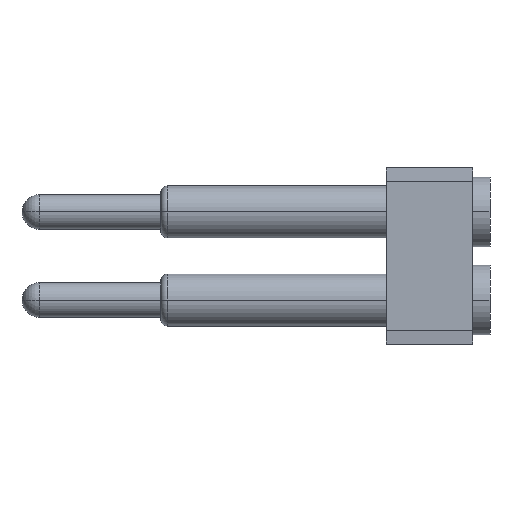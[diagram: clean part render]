
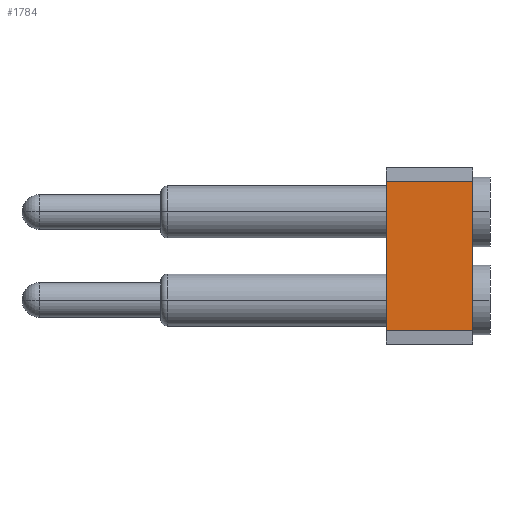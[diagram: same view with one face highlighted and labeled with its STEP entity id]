
A CAD part, left-side view. The second image highlights one B-rep face of the part: STEP entity #1784.
In plain terms, the highlighted planar face has unit normal (-1, 0, 0).
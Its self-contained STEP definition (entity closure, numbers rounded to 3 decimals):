
#89=DIRECTION('',(0.,0.,1.));
#90=VECTOR('',#89,4.307);
#91=CARTESIAN_POINT('',(-6.104,0.,-4.694));
#92=LINE('',#91,#90);
#449=DIRECTION('',(0.,0.,1.));
#450=VECTOR('',#449,4.307);
#451=CARTESIAN_POINT('',(-6.104,2.5,-4.694));
#452=LINE('',#451,#450);
#645=DIRECTION('',(0.,1.,0.));
#646=VECTOR('',#645,2.5);
#647=CARTESIAN_POINT('',(-6.104,0.,-0.387));
#648=LINE('',#647,#646);
#649=DIRECTION('',(0.,1.,0.));
#650=VECTOR('',#649,2.5);
#651=CARTESIAN_POINT('',(-6.104,0.,-4.694));
#652=LINE('',#651,#650);
#693=CARTESIAN_POINT('',(-6.104,0.,-4.694));
#694=VERTEX_POINT('',#693);
#695=CARTESIAN_POINT('',(-6.104,0.,-0.387));
#696=VERTEX_POINT('',#695);
#797=CARTESIAN_POINT('',(-6.104,2.5,-4.694));
#798=VERTEX_POINT('',#797);
#799=CARTESIAN_POINT('',(-6.104,2.5,-0.387));
#800=VERTEX_POINT('',#799);
#1772=CARTESIAN_POINT('',(-6.104,0.,-4.694));
#1773=DIRECTION('',(-1.,0.,0.));
#1774=DIRECTION('',(0.,0.,1.));
#1775=AXIS2_PLACEMENT_3D('',#1772,#1773,#1774);
#1776=PLANE('',#1775);
#1777=ORIENTED_EDGE('',*,*,#874,.F.);
#1779=ORIENTED_EDGE('',*,*,#1778,.T.);
#1780=ORIENTED_EDGE('',*,*,#1094,.T.);
#1781=ORIENTED_EDGE('',*,*,#1765,.F.);
#1782=EDGE_LOOP('',(#1777,#1779,#1780,#1781));
#1783=FACE_OUTER_BOUND('',#1782,.F.);
#874=EDGE_CURVE('',#694,#696,#92,.T.);
#1094=EDGE_CURVE('',#798,#800,#452,.T.);
#1765=EDGE_CURVE('',#696,#800,#648,.T.);
#1778=EDGE_CURVE('',#694,#798,#652,.T.);
#1784=ADVANCED_FACE('',(#1783),#1776,.T.);
